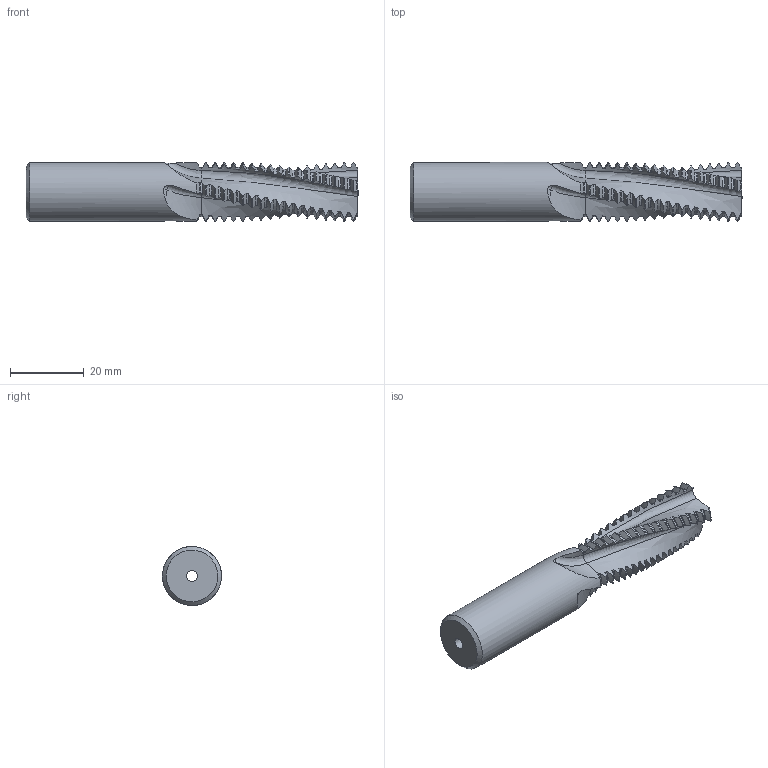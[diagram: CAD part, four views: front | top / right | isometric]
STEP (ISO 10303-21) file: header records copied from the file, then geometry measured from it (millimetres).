
FILE_DESCRIPTION(/* description */ (''),/* implementation_level */ '2;1');
FILE_NAME(/* name */ '00031056-STEP',/* time_stamp */ '2024-02-12T07:02:36+01:00',/* author */ (''),/* organization */ (''),/* preprocessor_version */ 'ST-DEVELOPER v16.5',/* originating_system */ 'HiCAD 2017 2201.0 Build 268',/* authorisation */ '');
FILE_SCHEMA (('AUTOMOTIVE_DESIGN { 1 0 10303 214 1 1 1 1 }'));
Products named in the file (2): Root; ROTATIONSTEIL_0
Assembly tree (1 placements, depth 2):
  Root
    ROTATIONSTEIL_0
Bounding box: 90 x 16 x 16 mm (x, y, z)
Volume: 12296 mm3; surface area: 5967.4 mm2
Topology: 1 solids, 1 shells, 458 faces, 1394 edges, 938 vertices
Faces by surface type: cylinder 143, cone 141, torus 140, bspline 32, plane 2
Full cylindrical faces by diameter (mm): 3 x1, 16 x1
Entity records: 56664 total; most frequent: CARTESIAN_POINT 32751, PRESENTATION_STYLE_ASSIGNMENT 2771, COLOUR_RGB 2771, DRAUGHTING_PRE_DEFINED_CURVE_FONT 2770, CURVE_STYLE 2770, OVER_RIDING_STYLED_ITEM 2770, ORIENTED_EDGE 2770, DIRECTION 1780
